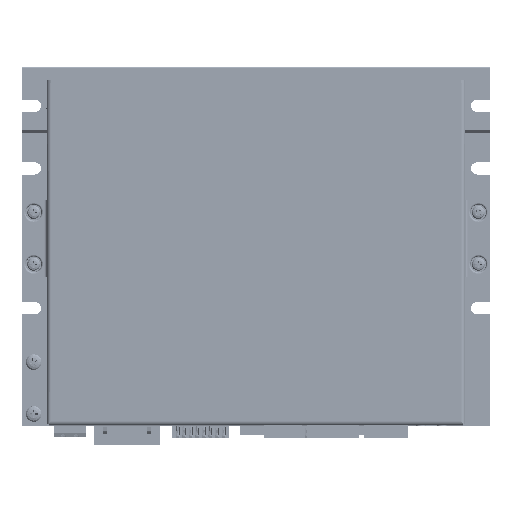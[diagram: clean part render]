
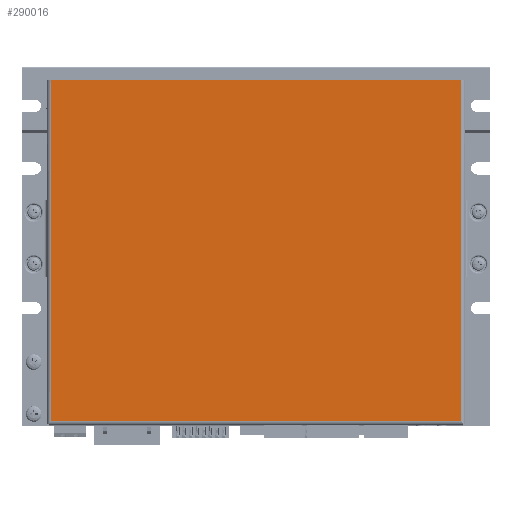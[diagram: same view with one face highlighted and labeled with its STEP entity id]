
A CAD part, top view. The second image highlights one B-rep face of the part: STEP entity #290016.
In plain terms, the highlighted planar face has unit normal (0, 0, 1).
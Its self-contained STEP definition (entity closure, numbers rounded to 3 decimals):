
#22988=LINE('',#418662,#50148);
#23015=LINE('',#418761,#50175);
#23016=LINE('',#418763,#50176);
#23017=LINE('',#418765,#50177);
#50148=VECTOR('',#345407,1000.);
#50175=VECTOR('',#345524,1000.);
#50176=VECTOR('',#345525,1000.);
#50177=VECTOR('',#345526,1000.);
#96202=ORIENTED_EDGE('',*,*,#147960,.T.);
#96203=ORIENTED_EDGE('',*,*,#147961,.T.);
#96204=ORIENTED_EDGE('',*,*,#147962,.T.);
#96205=ORIENTED_EDGE('',*,*,#147914,.T.);
#147914=EDGE_CURVE('',#176283,#176282,#22988,.T.);
#147960=EDGE_CURVE('',#176282,#176310,#23015,.T.);
#147961=EDGE_CURVE('',#176310,#176311,#23016,.T.);
#147962=EDGE_CURVE('',#176311,#176283,#23017,.T.);
#176282=VERTEX_POINT('',#418661);
#176283=VERTEX_POINT('',#418663);
#176310=VERTEX_POINT('',#418762);
#176311=VERTEX_POINT('',#418764);
#196232=EDGE_LOOP('',(#96202,#96203,#96204,#96205));
#210737=FACE_BOUND('',#196232,.T.);
#222594=PLANE('',#306910);
#290016=ADVANCED_FACE('',(#210737),#222594,.T.);
#306910=AXIS2_PLACEMENT_3D('',#418760,#345522,#345523);
#345407=DIRECTION('',(-1.,0.,0.));
#345522=DIRECTION('',(0.,0.,1.));
#345523=DIRECTION('',(1.,0.,0.));
#345524=DIRECTION('',(0.,-1.,0.));
#345525=DIRECTION('',(1.,0.,0.));
#345526=DIRECTION('',(0.,1.,0.));
#418661=CARTESIAN_POINT('',(-79.05,66.75,0.));
#418662=CARTESIAN_POINT('',(80.75,66.75,0.));
#418663=CARTESIAN_POINT('',(79.05,66.75,0.));
#418760=CARTESIAN_POINT('',(0.,0.,0.));
#418761=CARTESIAN_POINT('',(-79.05,66.75,0.));
#418762=CARTESIAN_POINT('',(-79.05,-65.05,0.));
#418763=CARTESIAN_POINT('',(-79.05,-65.05,0.));
#418764=CARTESIAN_POINT('',(79.05,-65.05,0.));
#418765=CARTESIAN_POINT('',(79.05,-66.75,0.));
